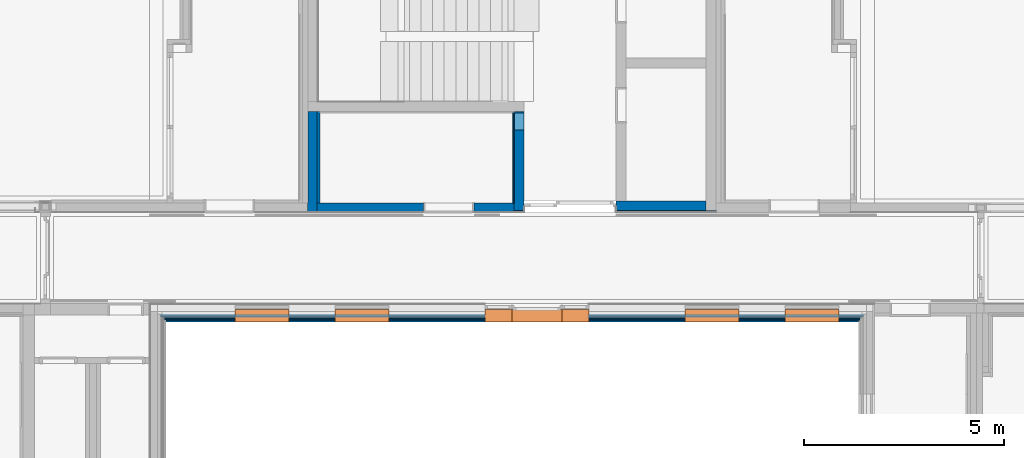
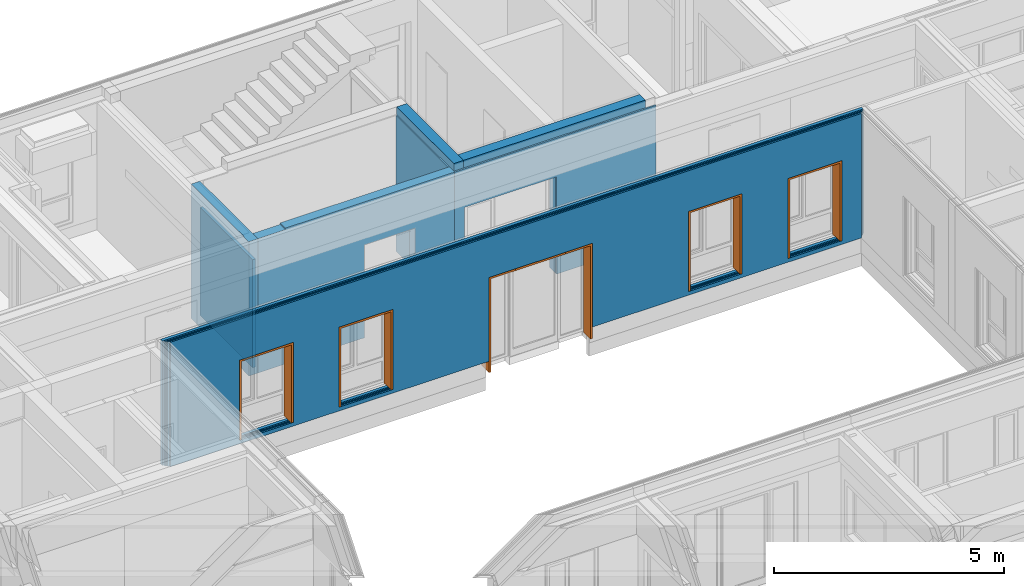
# One storey, part 35 of 207: 12 walls, 7 proxies, 40 openings.
"""IFC4 building model written with IfcOpenShell, lengths in metres."""

from ifc_helpers import new_model, entity, si_unit, converted_unit, derived_unit, frame, frame_2d, origin, origin_with_axes, place, context, subcontext, project, spatial, polyline, rectangle, outline, extrude, clip, bounded_halfspace, faceted_brep, material, element, fill, save


model = new_model("IFC4")

# Units and contexts
model_context = context("Model", 3, precision=1e-05, world=origin())
body_context = subcontext(model_context, "Body", "Model", "MODEL_VIEW")
ifc_project = project(units=[si_unit("LENGTHUNIT", "METRE"), si_unit("AREAUNIT", "SQUARE_METRE"), si_unit("VOLUMEUNIT", "CUBIC_METRE"), si_unit("MASSUNIT", "GRAM", prefix="KILO"), converted_unit("PLANEANGLEUNIT", "DEGREE", entity("IfcPlaneAngleMeasure", 0.0174532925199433), si_unit("PLANEANGLEUNIT", "RADIAN"), dimensions=[0, 0, 0, 0, 0, 0, 0]), derived_unit("THERMALTRANSMITTANCEUNIT", [(si_unit("POWERUNIT", "WATT"), 1), (si_unit("THERMODYNAMICTEMPERATUREUNIT", "KELVIN"), -1), (si_unit("LENGTHUNIT", "METRE"), -2)]), derived_unit("VOLUMETRICFLOWRATEUNIT", [(si_unit("LENGTHUNIT", "METRE"), 3), (converted_unit("TIMEUNIT", "hour", entity("IfcTimeMeasure", 3600.0), si_unit("TIMEUNIT", "SECOND"), dimensions=[0, 0, 1, 0, 0, 0, 0]), -1), (si_unit("LENGTHUNIT", "METRE"), -1)])], contexts=[model_context])

# Site, building, storey
site_placement = place(None, origin())
site = spatial("IfcSite", under=ifc_project, at=site_placement, Name="Psychiatrie Neubau Wunstorf", CompositionType="ELEMENT")
building_placement = place(site_placement, origin())
building = spatial("IfcBuilding", under=site, at=building_placement, Name="Neubau H2 Stationsgebäude", CompositionType="ELEMENT")
storey_placement = place(building_placement, frame((0.0, 0.0, -0.2)))
storey = spatial("IfcBuildingStorey", under=building, at=storey_placement, Name="H2 Ebene 0", CompositionType="ELEMENT", Elevation=-0.2)

# Wall, openings
ifc_material_1 = material(Name="WA-DL")
wall_1_placement = place(storey_placement, frame((61.7850000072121, 20.3299980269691, 0.5), z_axis=(0.0, 0.0, 1.0), x_axis=(-1.0, 0.0, 0.0)))
wall_1 = element("IfcWall", 1, at=wall_1_placement, inside=storey, material=ifc_material_1, context=body_context, shape_type="SweptSolid", body=[
    extrude(rectangle(XDim=17.5700000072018, YDim=0.0800000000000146, at=frame_2d((8.78500000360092, 0.0400000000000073), x_axis=(1.0, 0.0))), origin_with_axes(), (0.0, 0.0, 1.0), 3.3),
])
opening_1_placement = place(wall_1_placement, frame((7.53738818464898, 0.0800000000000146, -0.3), z_axis=(0.0, -1.0, 0.0), x_axis=(0.0, 0.0, 1.0)))
element("IfcOpeningElement", 2, at=opening_1_placement, cuts=wall_1, Name="Fensteröffnung", ObjectType="Opening", context=body_context, shape_type="SweptSolid", body=[
    extrude(outline(polyline([(2.52, 0.675), (2.52, 0.0), (0.0, 0.0), (0.0, 0.675), (2.52, 0.675)])), origin_with_axes(), (0.0, 0.0, 1.0), 0.0800000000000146),
])
opening_2_placement = place(wall_1_placement, frame((1.962388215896, 0.0800000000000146, 0.1), z_axis=(0.0, -1.0, 0.0), x_axis=(0.0, 0.0, 1.0)))
element("IfcOpeningElement", 3, at=opening_2_placement, cuts=wall_1, Name="Fensteröffnung", ObjectType="Opening", context=body_context, shape_type="SweptSolid", body=[
    extrude(outline(polyline([(2.12, 1.35), (2.12, 0.0), (0.0, 0.0), (0.0, 1.35), (2.12, 1.35)])), origin_with_axes(), (0.0, 0.0, 1.0), 0.0800000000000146),
])
opening_3_placement = place(wall_1_placement, frame((4.462388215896, 0.0800000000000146, 0.1), z_axis=(0.0, -1.0, 0.0), x_axis=(0.0, 0.0, 1.0)))
element("IfcOpeningElement", 4, at=opening_3_placement, cuts=wall_1, Name="Fensteröffnung", ObjectType="Opening", context=body_context, shape_type="SweptSolid", body=[
    extrude(outline(polyline([(2.12, 1.35), (2.12, 0.0), (0.0, 0.0), (0.0, 1.35), (2.12, 1.35)])), origin_with_axes(), (0.0, 0.0, 1.0), 0.0800000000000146),
])
opening_4_placement = place(wall_1_placement, frame((13.212388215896, 0.0800000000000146, 0.1), z_axis=(0.0, -1.0, 0.0), x_axis=(0.0, 0.0, 1.0)))
element("IfcOpeningElement", 5, at=opening_4_placement, cuts=wall_1, Name="Fensteröffnung", ObjectType="Opening", context=body_context, shape_type="SweptSolid", body=[
    extrude(outline(polyline([(2.12, 1.35), (2.12, 0.0), (0.0, 0.0), (0.0, 1.35), (2.12, 1.35)])), origin_with_axes(), (0.0, 0.0, 1.0), 0.0800000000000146),
])
opening_5_placement = place(wall_1_placement, frame((15.7123882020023, 0.0800000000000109, 0.1), z_axis=(0.0, -1.0, 0.0), x_axis=(0.0, 0.0, 1.0)))
element("IfcOpeningElement", 6, at=opening_5_placement, cuts=wall_1, Name="Fensteröffnung", ObjectType="Opening", context=body_context, shape_type="SweptSolid", body=[
    extrude(outline(polyline([(2.12, 1.35), (2.12, 0.0), (0.0, 0.0), (0.0, 1.35), (2.12, 1.35)])), origin_with_axes(), (0.0, 0.0, 1.0), 0.0800000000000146),
])
opening_6_placement = place(wall_1_placement, frame((8.787388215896, 0.0800000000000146, -0.5), z_axis=(0.0, -1.0, 0.0), x_axis=(0.0, 0.0, 1.0)))
element("IfcOpeningElement", 7, at=opening_6_placement, cuts=wall_1, Name="Türöffnung", ObjectType="Opening", context=body_context, shape_type="SweptSolid", body=[
    extrude(outline(polyline([(2.72, 1.25), (2.72, 0.0), (0.0, 0.0), (0.0, 1.25), (2.72, 1.25)])), origin_with_axes(), (0.0, 0.0, 1.0), 0.0800000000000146),
])
opening_7_placement = place(wall_1_placement, frame((9.462388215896, 0.0800000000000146, -0.3), z_axis=(0.0, -1.0, 0.0), x_axis=(0.0, 0.0, 1.0)))
element("IfcOpeningElement", 8, at=opening_7_placement, cuts=wall_1, Name="Fensteröffnung", ObjectType="Opening", context=body_context, shape_type="SweptSolid", body=[
    extrude(outline(polyline([(2.52, 0.675), (2.52, 0.0), (0.0, 0.0), (0.0, 0.675), (2.52, 0.675)])), origin_with_axes(), (0.0, 0.0, 1.0), 0.0800000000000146),
])

ifc_material_2 = material(Name="WA-LB")
wall_2_placement = place(storey_placement, frame((61.7490000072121, 20.2499980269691, 0.5), z_axis=(0.0, 0.0, 1.0), x_axis=(-1.0, 0.0, 0.0)))
wall_2 = element("IfcWall", 9, at=wall_2_placement, inside=storey, material=ifc_material_2, context=body_context, shape_type="SweptSolid", body=[
    extrude(rectangle(XDim=17.4980000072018, YDim=0.0359999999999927, at=frame_2d((8.74900000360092, 0.0179999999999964), x_axis=(1.0, 0.0))), origin_with_axes(), (0.0, 0.0, 1.0), 3.3),
])
opening_8_placement = place(wall_2_placement, frame((7.50138818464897, 0.0360000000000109, -0.3), z_axis=(0.0, -1.0, 0.0), x_axis=(0.0, 0.0, 1.0)))
element("IfcOpeningElement", 10, at=opening_8_placement, cuts=wall_2, Name="Fensteröffnung", ObjectType="Opening", context=body_context, shape_type="SweptSolid", body=[
    extrude(outline(polyline([(2.52, 0.675), (2.52, 0.0), (0.0, 0.0), (0.0, 0.675), (2.52, 0.675)])), origin_with_axes(), (0.0, 0.0, 1.0), 0.0360000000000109),
])
opening_9_placement = place(wall_2_placement, frame((1.926388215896, 0.0360000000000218, 0.1), z_axis=(0.0, -1.0, 0.0), x_axis=(0.0, 0.0, 1.0)))
element("IfcOpeningElement", 11, at=opening_9_placement, cuts=wall_2, Name="Fensteröffnung", ObjectType="Opening", context=body_context, shape_type="SweptSolid", body=[
    extrude(outline(polyline([(2.12, 1.35), (2.12, 0.0), (0.0, 0.0), (0.0, 1.35), (2.12, 1.35)])), origin_with_axes(), (0.0, 0.0, 1.0), 0.0360000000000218),
])
opening_10_placement = place(wall_2_placement, frame((4.426388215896, 0.0360000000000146, 0.1), z_axis=(0.0, -1.0, 0.0), x_axis=(0.0, 0.0, 1.0)))
element("IfcOpeningElement", 12, at=opening_10_placement, cuts=wall_2, Name="Fensteröffnung", ObjectType="Opening", context=body_context, shape_type="SweptSolid", body=[
    extrude(outline(polyline([(2.12, 1.35), (2.12, 0.0), (0.0, 0.0), (0.0, 1.35), (2.12, 1.35)])), origin_with_axes(), (0.0, 0.0, 1.0), 0.0360000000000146),
])
opening_11_placement = place(wall_2_placement, frame((13.176388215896, 0.036, 0.1), z_axis=(0.0, -1.0, 0.0), x_axis=(0.0, 0.0, 1.0)))
element("IfcOpeningElement", 13, at=opening_11_placement, cuts=wall_2, Name="Fensteröffnung", ObjectType="Opening", context=body_context, shape_type="SweptSolid", body=[
    extrude(outline(polyline([(2.12, 1.35), (2.12, 0.0), (0.0, 0.0), (0.0, 1.35), (2.12, 1.35)])), origin_with_axes(), (0.0, 0.0, 1.0), 0.036),
])
opening_12_placement = place(wall_2_placement, frame((15.6763882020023, 0.0359999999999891, 0.1), z_axis=(0.0, -1.0, 0.0), x_axis=(0.0, 0.0, 1.0)))
element("IfcOpeningElement", 14, at=opening_12_placement, cuts=wall_2, Name="Fensteröffnung", ObjectType="Opening", context=body_context, shape_type="SweptSolid", body=[
    extrude(outline(polyline([(2.12, 1.35), (2.12, 0.0), (0.0, 0.0), (0.0, 1.35), (2.12, 1.35)])), origin_with_axes(), (0.0, 0.0, 1.0), 0.0359999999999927),
])
opening_13_placement = place(wall_2_placement, frame((8.751388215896, 0.0360000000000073, -0.5), z_axis=(0.0, -1.0, 0.0), x_axis=(0.0, 0.0, 1.0)))
element("IfcOpeningElement", 15, at=opening_13_placement, cuts=wall_2, Name="Türöffnung", ObjectType="Opening", context=body_context, shape_type="SweptSolid", body=[
    extrude(outline(polyline([(2.72, 1.25), (2.72, 0.0), (0.0, 0.0), (0.0, 1.25), (2.72, 1.25)])), origin_with_axes(), (0.0, 0.0, 1.0), 0.0360000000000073),
])
opening_14_placement = place(wall_2_placement, frame((9.426388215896, 0.0360000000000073, -0.3), z_axis=(0.0, -1.0, 0.0), x_axis=(0.0, 0.0, 1.0)))
element("IfcOpeningElement", 16, at=opening_14_placement, cuts=wall_2, Name="Fensteröffnung", ObjectType="Opening", context=body_context, shape_type="SweptSolid", body=[
    extrude(outline(polyline([(2.52, 0.675), (2.52, 0.0), (0.0, 0.0), (0.0, 0.675), (2.52, 0.675)])), origin_with_axes(), (0.0, 0.0, 1.0), 0.0360000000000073),
])

ifc_material_3 = material(Name="WA-KL")
wall_3_placement = place(storey_placement, frame((61.7250000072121, 20.2139980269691, 0.5), z_axis=(0.0, 0.0, 1.0), x_axis=(-1.0, 1.87632144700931e-15, 0.0)))
wall_3 = element("IfcWall", 17, at=wall_3_placement, inside=storey, material=ifc_material_3, context=body_context, shape_type="SweptSolid", body=[
    extrude(rectangle(XDim=17.4500000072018, YDim=0.0240000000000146, at=frame_2d((8.72500000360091, 0.0120000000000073), x_axis=(1.0, 0.0))), origin_with_axes(), (0.0, 0.0, 1.0), 3.3),
])
opening_15_placement = place(wall_3_placement, frame((7.47738818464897, 0.0239999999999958, -0.3), z_axis=(0.0, -1.0, 0.0), x_axis=(0.0, 0.0, 1.0)))
element("IfcOpeningElement", 18, at=opening_15_placement, cuts=wall_3, Name="Fensteröffnung", ObjectType="Opening", context=body_context, shape_type="SweptSolid", body=[
    extrude(outline(polyline([(2.52, 0.675), (2.52, 0.0), (0.0, 0.0), (0.0, 0.675), (2.52, 0.675)])), origin_with_axes(), (0.0, 0.0, 1.0), 0.0239999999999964),
])
opening_16_placement = place(wall_3_placement, frame((1.902388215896, 0.0239999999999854, 0.1), z_axis=(0.0, -1.0, 0.0), x_axis=(0.0, 0.0, 1.0)))
element("IfcOpeningElement", 19, at=opening_16_placement, cuts=wall_3, Name="Fensteröffnung", ObjectType="Opening", context=body_context, shape_type="SweptSolid", body=[
    extrude(outline(polyline([(2.12, 1.35), (2.12, 0.0), (0.0, 0.0), (0.0, 1.35), (2.12, 1.35)])), origin_with_axes(), (0.0, 0.0, 1.0), 0.0239999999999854),
])
opening_17_placement = place(wall_3_placement, frame((4.402388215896, 0.0239999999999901, 0.1), z_axis=(0.0, -1.0, 0.0), x_axis=(0.0, 0.0, 1.0)))
element("IfcOpeningElement", 20, at=opening_17_placement, cuts=wall_3, Name="Fensteröffnung", ObjectType="Opening", context=body_context, shape_type="SweptSolid", body=[
    extrude(outline(polyline([(2.12, 1.35), (2.12, 0.0), (0.0, 0.0), (0.0, 1.35), (2.12, 1.35)])), origin_with_axes(), (0.0, 0.0, 1.0), 0.0239999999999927),
])
opening_18_placement = place(wall_3_placement, frame((13.152388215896, 0.0240000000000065, 0.1), z_axis=(0.0, -1.0, 0.0), x_axis=(0.0, 0.0, 1.0)))
element("IfcOpeningElement", 21, at=opening_18_placement, cuts=wall_3, Name="Fensteröffnung", ObjectType="Opening", context=body_context, shape_type="SweptSolid", body=[
    extrude(outline(polyline([(2.12, 1.35), (2.12, 0.0), (0.0, 0.0), (0.0, 1.35), (2.12, 1.35)])), origin_with_axes(), (0.0, 0.0, 1.0), 0.0240000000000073),
])
opening_19_placement = place(wall_3_placement, frame((15.6523882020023, 0.0240000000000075, 0.1), z_axis=(0.0, -1.0, 0.0), x_axis=(0.0, 0.0, 1.0)))
element("IfcOpeningElement", 22, at=opening_19_placement, cuts=wall_3, Name="Fensteröffnung", ObjectType="Opening", context=body_context, shape_type="SweptSolid", body=[
    extrude(outline(polyline([(2.12, 1.35), (2.12, 0.0), (0.0, 0.0), (0.0, 1.35), (2.12, 1.35)])), origin_with_axes(), (0.0, 0.0, 1.0), 0.0240000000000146),
])
opening_20_placement = place(wall_3_placement, frame((8.727388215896, 0.0239999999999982, -0.5), z_axis=(0.0, -1.0, 0.0), x_axis=(0.0, 0.0, 1.0)))
element("IfcOpeningElement", 23, at=opening_20_placement, cuts=wall_3, Name="Türöffnung", ObjectType="Opening", context=body_context, shape_type="SweptSolid", body=[
    extrude(outline(polyline([(2.72, 1.25), (2.72, 0.0), (0.0, 0.0), (0.0, 1.25), (2.72, 1.25)])), origin_with_axes(), (0.0, 0.0, 1.0), 0.024),
])
opening_21_placement = place(wall_3_placement, frame((9.402388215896, 0.0239999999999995, -0.3), z_axis=(0.0, -1.0, 0.0), x_axis=(0.0, 0.0, 1.0)))
element("IfcOpeningElement", 24, at=opening_21_placement, cuts=wall_3, Name="Fensteröffnung", ObjectType="Opening", context=body_context, shape_type="SweptSolid", body=[
    extrude(outline(polyline([(2.52, 0.675), (2.52, 0.0), (0.0, 0.0), (0.0, 0.675), (2.52, 0.675)])), origin_with_axes(), (0.0, 0.0, 1.0), 0.024),
])

ifc_material_4 = material(Name="WA-TL")
wall_4_placement = place(storey_placement, frame((61.7010000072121, 20.1899980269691, 0.5), z_axis=(0.0, 0.0, 1.0), x_axis=(-1.0, 0.0, 0.0)))
wall_4 = element("IfcWall", 25, at=wall_4_placement, inside=storey, material=ifc_material_4, context=body_context, shape_type="SweptSolid", body=[
    extrude(rectangle(XDim=17.4020000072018, YDim=0.0239999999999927, at=frame_2d((8.70100000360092, 0.0119999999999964), x_axis=(1.0, 0.0))), origin_with_axes(), (0.0, 0.0, 1.0), 3.3),
])
opening_22_placement = place(wall_4_placement, frame((7.45338818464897, 0.0240000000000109, -0.3), z_axis=(0.0, -1.0, 0.0), x_axis=(0.0, 0.0, 1.0)))
element("IfcOpeningElement", 26, at=opening_22_placement, cuts=wall_4, Name="Fensteröffnung", ObjectType="Opening", context=body_context, shape_type="SweptSolid", body=[
    extrude(outline(polyline([(2.52, 0.675), (2.52, 0.0), (0.0, 0.0), (0.0, 0.675), (2.52, 0.675)])), origin_with_axes(), (0.0, 0.0, 1.0), 0.0240000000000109),
])
opening_23_placement = place(wall_4_placement, frame((1.878388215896, 0.0240000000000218, 0.1), z_axis=(0.0, -1.0, 0.0), x_axis=(0.0, 0.0, 1.0)))
element("IfcOpeningElement", 27, at=opening_23_placement, cuts=wall_4, Name="Fensteröffnung", ObjectType="Opening", context=body_context, shape_type="SweptSolid", body=[
    extrude(outline(polyline([(2.12, 1.35), (2.12, 0.0), (0.0, 0.0), (0.0, 1.35), (2.12, 1.35)])), origin_with_axes(), (0.0, 0.0, 1.0), 0.0240000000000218),
])
opening_24_placement = place(wall_4_placement, frame((4.378388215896, 0.0240000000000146, 0.1), z_axis=(0.0, -1.0, 0.0), x_axis=(0.0, 0.0, 1.0)))
element("IfcOpeningElement", 28, at=opening_24_placement, cuts=wall_4, Name="Fensteröffnung", ObjectType="Opening", context=body_context, shape_type="SweptSolid", body=[
    extrude(outline(polyline([(2.12, 1.35), (2.12, 0.0), (0.0, 0.0), (0.0, 1.35), (2.12, 1.35)])), origin_with_axes(), (0.0, 0.0, 1.0), 0.0240000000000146),
])
opening_25_placement = place(wall_4_placement, frame((13.128388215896, 0.024, 0.1), z_axis=(0.0, -1.0, 0.0), x_axis=(0.0, 0.0, 1.0)))
element("IfcOpeningElement", 29, at=opening_25_placement, cuts=wall_4, Name="Fensteröffnung", ObjectType="Opening", context=body_context, shape_type="SweptSolid", body=[
    extrude(outline(polyline([(2.12, 1.35), (2.12, 0.0), (0.0, 0.0), (0.0, 1.35), (2.12, 1.35)])), origin_with_axes(), (0.0, 0.0, 1.0), 0.024),
])
opening_26_placement = place(wall_4_placement, frame((15.6283882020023, 0.0239999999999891, 0.1), z_axis=(0.0, -1.0, 0.0), x_axis=(0.0, 0.0, 1.0)))
element("IfcOpeningElement", 30, at=opening_26_placement, cuts=wall_4, Name="Fensteröffnung", ObjectType="Opening", context=body_context, shape_type="SweptSolid", body=[
    extrude(outline(polyline([(2.12, 1.35), (2.12, 0.0), (0.0, 0.0), (0.0, 1.35), (2.12, 1.35)])), origin_with_axes(), (0.0, 0.0, 1.0), 0.0239999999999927),
])
opening_27_placement = place(wall_4_placement, frame((8.703388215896, 0.0240000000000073, -0.5), z_axis=(0.0, -1.0, 0.0), x_axis=(0.0, 0.0, 1.0)))
element("IfcOpeningElement", 31, at=opening_27_placement, cuts=wall_4, Name="Türöffnung", ObjectType="Opening", context=body_context, shape_type="SweptSolid", body=[
    extrude(outline(polyline([(2.72, 1.25), (2.72, 0.0), (0.0, 0.0), (0.0, 1.25), (2.72, 1.25)])), origin_with_axes(), (0.0, 0.0, 1.0), 0.0240000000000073),
])
opening_28_placement = place(wall_4_placement, frame((9.378388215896, 0.0240000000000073, -0.3), z_axis=(0.0, -1.0, 0.0), x_axis=(0.0, 0.0, 1.0)))
element("IfcOpeningElement", 32, at=opening_28_placement, cuts=wall_4, Name="Fensteröffnung", ObjectType="Opening", context=body_context, shape_type="SweptSolid", body=[
    extrude(outline(polyline([(2.52, 0.675), (2.52, 0.0), (0.0, 0.0), (0.0, 0.675), (2.52, 0.675)])), origin_with_axes(), (0.0, 0.0, 1.0), 0.0240000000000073),
])

# Wall, openings, proxies
ifc_material_5 = material(Name="WA-HS")
wall_5_placement = place(storey_placement, frame((61.6590000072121, 20.1659980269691, 0.5), z_axis=(0.0, 0.0, 1.0), x_axis=(-1.0, 1.8906230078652e-15, 0.0)))
wall_5 = element("IfcWall", 33, at=wall_5_placement, inside=storey, material=ifc_material_5, context=body_context, shape_type="SweptSolid", body=[
    extrude(rectangle(XDim=17.3180000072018, YDim=0.0420000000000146, at=frame_2d((8.65900000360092, 0.0210000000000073), x_axis=(1.0, 0.0))), origin_with_axes(), (0.0, 0.0, 1.0), 3.3),
])
opening_29_placement = place(wall_5_placement, frame((7.41138818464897, 0.0419999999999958, -0.3), z_axis=(0.0, -1.0, 0.0), x_axis=(0.0, 0.0, 1.0)))
opening_29 = element("IfcOpeningElement", 34, at=opening_29_placement, cuts=wall_5, Name="Fensteröffnung", ObjectType="Opening", context=body_context, shape_type="SweptSolid", body=[
    extrude(outline(polyline([(2.52, 0.675), (2.52, 0.0), (0.0, 0.0), (0.0, 0.675), (2.52, 0.675)])), origin_with_axes(), (0.0, 0.0, 1.0), 0.0419999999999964),
])
opening_30_placement = place(wall_5_placement, frame((1.836388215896, 0.0419999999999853, 0.1), z_axis=(0.0, -1.0, 0.0), x_axis=(0.0, 0.0, 1.0)))
opening_30 = element("IfcOpeningElement", 35, at=opening_30_placement, cuts=wall_5, Name="Fensteröffnung", ObjectType="Opening", context=body_context, shape_type="SweptSolid", body=[
    extrude(outline(polyline([(2.12, 1.35), (2.12, 0.0), (0.0, 0.0), (0.0, 1.35), (2.12, 1.35)])), origin_with_axes(), (0.0, 0.0, 1.0), 0.0419999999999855),
])
opening_31_placement = place(wall_5_placement, frame((4.336388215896, 0.04199999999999, 0.1), z_axis=(0.0, -1.0, 0.0), x_axis=(0.0, 0.0, 1.0)))
opening_31 = element("IfcOpeningElement", 36, at=opening_31_placement, cuts=wall_5, Name="Fensteröffnung", ObjectType="Opening", context=body_context, shape_type="SweptSolid", body=[
    extrude(outline(polyline([(2.12, 1.35), (2.12, 0.0), (0.0, 0.0), (0.0, 1.35), (2.12, 1.35)])), origin_with_axes(), (0.0, 0.0, 1.0), 0.0419999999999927),
])
opening_32_placement = place(wall_5_placement, frame((13.086388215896, 0.0420000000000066, 0.1), z_axis=(0.0, -1.0, 0.0), x_axis=(0.0, 0.0, 1.0)))
opening_32 = element("IfcOpeningElement", 37, at=opening_32_placement, cuts=wall_5, Name="Fensteröffnung", ObjectType="Opening", context=body_context, shape_type="SweptSolid", body=[
    extrude(outline(polyline([(2.12, 1.35), (2.12, 0.0), (0.0, 0.0), (0.0, 1.35), (2.12, 1.35)])), origin_with_axes(), (0.0, 0.0, 1.0), 0.0420000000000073),
])
opening_33_placement = place(wall_5_placement, frame((15.5863882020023, 0.042000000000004, 0.1), z_axis=(0.0, -1.0, 0.0), x_axis=(0.0, 0.0, 1.0)))
opening_33 = element("IfcOpeningElement", 38, at=opening_33_placement, cuts=wall_5, Name="Fensteröffnung", ObjectType="Opening", context=body_context, shape_type="SweptSolid", body=[
    extrude(outline(polyline([(2.12, 1.35), (2.12, 0.0), (0.0, 0.0), (0.0, 1.35), (2.12, 1.35)])), origin_with_axes(), (0.0, 0.0, 1.0), 0.0420000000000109),
])
opening_34_placement = place(wall_5_placement, frame((8.661388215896, 0.0419999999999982, -0.5), z_axis=(0.0, -1.0, 0.0), x_axis=(0.0, 0.0, 1.0)))
opening_34 = element("IfcOpeningElement", 39, at=opening_34_placement, cuts=wall_5, Name="Türöffnung", ObjectType="Opening", context=body_context, shape_type="SweptSolid", body=[
    extrude(outline(polyline([(2.72, 1.25), (2.72, 0.0), (0.0, 0.0), (0.0, 1.25), (2.72, 1.25)])), origin_with_axes(), (0.0, 0.0, 1.0), 0.042),
])
opening_35_placement = place(wall_5_placement, frame((9.336388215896, 0.0419999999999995, -0.3), z_axis=(0.0, -1.0, 0.0), x_axis=(0.0, 0.0, 1.0)))
opening_35 = element("IfcOpeningElement", 40, at=opening_35_placement, cuts=wall_5, Name="Fensteröffnung", ObjectType="Opening", context=body_context, shape_type="SweptSolid", body=[
    extrude(outline(polyline([(2.52, 0.675), (2.52, 0.0), (0.0, 0.0), (0.0, 0.675), (2.52, 0.675)])), origin_with_axes(), (0.0, 0.0, 1.0), 0.042),
])
ifc_material_6 = material(Name="WA-HS")
proxy_1_placement = place(opening_29_placement, origin())
proxy_1 = element("IfcBuildingElementProxy", 41, at=proxy_1_placement, inside=storey, material=ifc_material_6, context=body_context, shape_type="Brep", body=[
    faceted_brep([(0.0, 0.674999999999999, 0.315000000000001), (0.0, 0.675, 0.0), (2.52, 0.675, 0.0), (2.52, 0.674999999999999, 0.315000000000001), (2.52, 0.0, 0.0), (2.52, 0.0, 0.315), (0.0, 0.625, 0.0), (0.0, 0.624999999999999, 0.315000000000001), (2.47, 0.0, 0.315), (2.47, 0.624999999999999, 0.315000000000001), (2.47, 0.625, 0.0), (2.47, 0.0, 0.0)], [[[0, 1, 2, 3]], [[2, 4, 5, 3]], [[6, 1, 0, 7]], [[7, 0, 3, 5, 8, 9]], [[1, 6, 10, 11, 4, 2]], [[6, 7, 9, 10]], [[11, 8, 5, 4]], [[8, 11, 10, 9]]], orient=[[False], [False], [False], [False], [False], [False], [False], [False]]),
])
fill(opening_29, proxy_1)
ifc_material_7 = material(Name="WA-HS")
proxy_2_placement = place(opening_30_placement, origin())
proxy_2 = element("IfcBuildingElementProxy", 42, at=proxy_2_placement, inside=storey, material=ifc_material_7, context=body_context, shape_type="Brep", body=[
    faceted_brep([(0.0, 1.35, 0.315000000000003), (0.0, 1.35, 0.0), (2.12, 1.35, 0.0), (2.12, 1.35, 0.315000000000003), (2.12, 0.0, 0.0), (2.12, 0.0, 0.315), (0.0, 1.3, 0.0), (0.0, 1.3, 0.315000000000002), (0.0, 0.0, 0.315), (0.0, 0.0499999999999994, 0.315), (2.07, 0.0499999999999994, 0.315), (2.07, 1.3, 0.315000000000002), (2.07, 1.3, 0.0), (2.07, 0.05, 0.0), (0.0, 0.05, 0.0), (0.0, 0.0, 0.0)], [[[0, 1, 2, 3]], [[2, 4, 5, 3]], [[6, 1, 0, 7]], [[7, 0, 3, 5, 8, 9, 10, 11]], [[1, 6, 12, 13, 14, 15, 4, 2]], [[6, 7, 11, 12]], [[15, 8, 5, 4]], [[15, 14, 9, 8]], [[9, 14, 13, 10]], [[10, 13, 12, 11]]], orient=[[False], [False], [False], [False], [False], [False], [False], [False], [False], [False]]),
])
fill(opening_30, proxy_2)
ifc_material_8 = material(Name="WA-HS")
proxy_3_placement = place(opening_31_placement, origin())
proxy_3 = element("IfcBuildingElementProxy", 43, at=proxy_3_placement, inside=storey, material=ifc_material_8, context=body_context, shape_type="Brep", body=[
    faceted_brep([(0.0, 1.35, 0.315000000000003), (0.0, 1.35, 0.0), (2.12, 1.35, 0.0), (2.12, 1.35, 0.315000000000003), (2.12, 0.0, 0.0), (2.12, 0.0, 0.315), (0.0, 1.3, 0.0), (0.0, 1.3, 0.315000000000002), (0.0, 0.0, 0.315), (0.0, 0.0499999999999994, 0.315), (2.07, 0.0499999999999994, 0.315), (2.07, 1.3, 0.315000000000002), (2.07, 1.3, 0.0), (2.07, 0.05, 0.0), (0.0, 0.05, 0.0), (0.0, 0.0, 0.0)], [[[0, 1, 2, 3]], [[2, 4, 5, 3]], [[6, 1, 0, 7]], [[7, 0, 3, 5, 8, 9, 10, 11]], [[1, 6, 12, 13, 14, 15, 4, 2]], [[6, 7, 11, 12]], [[15, 8, 5, 4]], [[15, 14, 9, 8]], [[9, 14, 13, 10]], [[10, 13, 12, 11]]], orient=[[False], [False], [False], [False], [False], [False], [False], [False], [False], [False]]),
])
fill(opening_31, proxy_3)
ifc_material_9 = material(Name="WA-HS")
proxy_4_placement = place(opening_32_placement, origin())
proxy_4 = element("IfcBuildingElementProxy", 44, at=proxy_4_placement, inside=storey, material=ifc_material_9, context=body_context, shape_type="Brep", body=[
    faceted_brep([(0.0, 0.0, 0.0), (0.0, 0.0, 0.315), (2.12, 0.0, 0.315), (2.12, 0.0, 0.0), (0.0, 0.0499999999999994, 0.315), (0.0, 0.05, 0.0), (2.07, 0.05, 0.0), (2.07, 0.0499999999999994, 0.315), (2.12, 1.35, 0.315000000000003), (2.12, 1.35, 0.0), (0.0, 1.35, 0.0), (0.0, 1.3, 0.0), (2.07, 1.3, 0.0), (2.07, 1.3, 0.315000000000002), (0.0, 1.3, 0.315000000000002), (0.0, 1.35, 0.315000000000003)], [[[0, 1, 2, 3]], [[4, 5, 6, 7]], [[0, 5, 4, 1]], [[3, 2, 8, 9]], [[6, 5, 0, 3, 9, 10, 11, 12]], [[13, 14, 15, 8, 2, 1, 4, 7]], [[7, 6, 12, 13]], [[11, 14, 13, 12]], [[15, 10, 9, 8]], [[11, 10, 15, 14]]], orient=[[False], [False], [False], [False], [False], [False], [False], [False], [False], [False]]),
])
fill(opening_32, proxy_4)
ifc_material_10 = material(Name="WA-HS")
proxy_5_placement = place(opening_33_placement, origin())
proxy_5 = element("IfcBuildingElementProxy", 45, at=proxy_5_placement, inside=storey, material=ifc_material_10, context=body_context, shape_type="Brep", body=[
    faceted_brep([(0.0, 0.0, 0.0), (0.0, 0.0, 0.315000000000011), (2.12, 0.0, 0.315000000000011), (2.12, 0.0, 0.0), (0.0, 0.0499999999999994, 0.315000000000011), (0.0, 0.05, 0.0), (2.07, 0.0500000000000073, 0.0), (2.07, 0.0500000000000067, 0.315), (2.12, 1.35, 0.315000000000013), (2.12, 1.35, 0.0), (0.0, 1.35, 0.0), (0.0, 1.3, 0.0), (2.07, 1.30000000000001, 0.0), (2.07, 1.30000000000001, 0.315000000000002), (0.0, 1.3, 0.315000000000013), (0.0, 1.35, 0.315000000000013)], [[[0, 1, 2, 3]], [[4, 5, 6, 7]], [[0, 5, 4, 1]], [[3, 2, 8, 9]], [[6, 5, 0, 3, 9, 10, 11, 12]], [[13, 14, 15, 8, 2, 1, 4, 7]], [[7, 6, 12, 13]], [[11, 14, 13, 12]], [[15, 10, 9, 8]], [[11, 10, 15, 14]]], orient=[[False], [False], [False], [False], [False], [False], [False], [False], [False], [False]]),
])
fill(opening_33, proxy_5)
ifc_material_11 = material(Name="WA-HS")
proxy_6_placement = place(opening_34_placement, frame((2.67, 0.0, 0.0)))
proxy_6 = element("IfcBuildingElementProxy", 46, at=proxy_6_placement, inside=storey, material=ifc_material_11, context=body_context, shape_type="Brep", body=[
    faceted_brep([(0.0, 0.0, 0.315), (0.0, 0.0, 0.0), (0.0, 1.25, 0.0), (0.0, 1.25, 0.315000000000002), (0.05, 0.0, 0.0), (0.05, 0.0, 0.315), (0.05, 1.25, 0.315000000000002), (0.05, 1.25, 0.0)], [[[0, 1, 2, 3]], [[4, 5, 6, 7]], [[1, 0, 5, 4]], [[2, 1, 4, 7]], [[3, 2, 7, 6]], [[0, 3, 6, 5]]], orient=[[False], [False], [False], [False], [False], [False]]),
])
fill(opening_34, proxy_6)
ifc_material_12 = material(Name="WA-HS")
proxy_7_placement = place(opening_35_placement, origin())
proxy_7 = element("IfcBuildingElementProxy", 47, at=proxy_7_placement, inside=storey, material=ifc_material_12, context=body_context, shape_type="Brep", body=[
    faceted_brep([(0.0, 0.0, 0.0), (0.0, 0.0, 0.315), (2.52, 0.0, 0.315), (2.52, 0.0, 0.0), (2.52, 0.674999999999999, 0.315000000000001), (2.52, 0.675, 0.0), (0.0, 0.05, 0.0), (0.0, 0.0499999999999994, 0.315), (2.47, 0.675, 0.0), (2.47, 0.05, 0.0), (2.47, 0.0499999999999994, 0.315), (2.47, 0.674999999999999, 0.315000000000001)], [[[0, 1, 2, 3]], [[3, 2, 4, 5]], [[0, 6, 7, 1]], [[6, 0, 3, 5, 8, 9]], [[1, 7, 10, 11, 4, 2]], [[7, 6, 9, 10]], [[11, 8, 5, 4]], [[10, 9, 8, 11]]], orient=[[False], [False], [False], [False], [False], [False], [False], [False]]),
])
fill(opening_35, proxy_7)

# Wall, opening
ifc_material_13 = material(Name="WI-HW 60")
wall_6_placement = place(storey_placement, frame((53.05, 23.0959999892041, 0.0), z_axis=(0.0, 0.0, 1.0), x_axis=(-1.0, 0.0, 0.0)))
wall_6 = element("IfcWall", 48, at=wall_6_placement, inside=storey, material=ifc_material_13, context=body_context, shape_type="Clipping", body=[
    clip(extrude(rectangle(XDim=4.929, YDim=0.232, at=frame_2d((2.4645, 0.116), x_axis=(1.0, 0.0))), origin_with_axes(), (0.0, 0.0, 1.0), 3.6), bounded_halfspace(frame((4.5845, 0.116, 3.56), z_axis=(0.0, 0.0, -1.0), x_axis=(0.0, 1.0, 0.0)), True, origin_with_axes(), polyline([(4.929, 0.0), (4.929, 0.232), (4.24, 0.232), (4.24, 0.0), (4.929, 0.0)]))),
])
opening_36_placement = place(wall_6_placement, frame((1.0, 0.0, 0.0), z_axis=(0.0, 1.0, 0.0), x_axis=(0.0, 0.0, 1.0)))
element("IfcOpeningElement", 49, at=opening_36_placement, cuts=wall_6, Name="SMT", ObjectType="Opening", context=body_context, shape_type="SweptSolid", body=[
    extrude(outline(polyline([(2.46, 1.26), (2.46, 0.0), (0.0, 0.0), (0.0, 1.26), (2.46, 1.26)])), origin_with_axes(), (0.0, 0.0, 1.0), 0.232),
])

# Walls
ifc_material_14 = material(Name="WI-HW 60")
wall_7_placement = place(storey_placement, frame((47.9, 25.3849999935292, 0.0), z_axis=(0.0, 0.0, 1.0), x_axis=(-0.00480553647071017, -0.999988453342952, 0.0)))
element("IfcWall", 50, at=wall_7_placement, inside=storey, material=ifc_material_14, context=body_context, shape_type="SweptSolid", body=[
    extrude(outline(polyline([(-0.231997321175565, -0.00111488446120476), (0.0, 0.0), (-0.00111488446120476, 0.231997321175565), (-2.52208577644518, 0.219882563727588), (-2.52102375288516, -0.00111488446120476), (-0.232050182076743, 0.00988498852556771), (-0.231997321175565, -0.00111488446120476)])), frame((2.52102375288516, 0.00111488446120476, 0.0), z_axis=(0.0, 0.0, 1.0), x_axis=(1.0, 0.0, 0.0)), (0.0, 0.0, 1.0), 3.56),
])
ifc_material_15 = material(Name="WI-LB")
wall_8_placement = place(storey_placement, frame((48.196, 23.0959999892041, 0.0), z_axis=(0.0, 0.0, 1.0), x_axis=(0.0, 1.0, 0.0)))
element("IfcWall", 51, at=wall_8_placement, inside=storey, material=ifc_material_15, context=body_context, shape_type="SweptSolid", body=[
    extrude(rectangle(XDim=2.28900000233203, YDim=0.075, at=frame_2d((1.14450000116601, 0.0375), x_axis=(1.0, 0.0))), origin_with_axes(), (0.0, 0.0, 1.0), 2.86),
])

# Wall, openings
ifc_material_16 = material(Name="WI-STB")
wall_9_placement = place(storey_placement, frame((53.3, 22.9049999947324, 0.0), z_axis=(0.0, 0.0, 1.0), x_axis=(0.0, 1.0, 0.0)))
wall_9 = element("IfcWall", 52, at=wall_9_placement, inside=storey, material=ifc_material_16, context=body_context, shape_type="SweptSolid", body=[
    extrude(outline(polyline([(0.0, -0.25), (2.4799999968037, -0.25), (2.4799999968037, 0.0), (0.190999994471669, 0.0), (0.0, 0.0), (0.0, -0.25)])), frame((0.0, 0.25, 0.0), z_axis=(0.0, 0.0, 1.0), x_axis=(1.0, 0.0, 0.0)), (0.0, 0.0, 1.0), 3.8),
])
opening_37_placement = place(wall_9_placement, frame((2.44055061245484, 0.25, 0.4), z_axis=(0.0, -1.0, 0.0), x_axis=(0.0, 0.0, 1.0)))
element("IfcOpeningElement", 53, at=opening_37_placement, cuts=wall_9, Name="Wandnische", ObjectType="Opening", context=body_context, shape_type="SweptSolid", body=[
    extrude(outline(polyline([(1.12, 0.42), (1.12, 0.0), (0.0, 0.0), (0.0, 0.42), (1.12, 0.42)])), origin_with_axes(), (0.0, 0.0, 1.0), 0.0299996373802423),
])
opening_38_placement = place(wall_9_placement, frame((2.44055061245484, 0.220000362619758, 0.4), z_axis=(0.0, -1.0, 0.0), x_axis=(0.0, 0.0, 1.0)))
element("IfcOpeningElement", 54, at=opening_38_placement, cuts=wall_9, Name="Wandnische", ObjectType="Opening", context=body_context, shape_type="SweptSolid", body=[
    extrude(outline(polyline([(1.12, 0.42), (1.12, 0.0), (0.0, 0.0), (0.0, 0.42), (1.12, 0.42)])), origin_with_axes(), (0.0, 0.0, 1.0), 0.220000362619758),
])

# Wall
ifc_material_17 = material(Name="WI-LB")
wall_10_placement = place(storey_placement, frame((53.05, 23.0959999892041, 0.0), z_axis=(0.0, 0.0, 1.0), x_axis=(0.0, 1.0, 0.0)))
element("IfcWall", 55, at=wall_10_placement, inside=storey, material=ifc_material_17, context=body_context, shape_type="SweptSolid", body=[
    extrude(rectangle(XDim=2.25900036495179, YDim=0.0299996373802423, at=frame_2d((1.12950018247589, 0.0149998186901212), x_axis=(1.0, 0.0))), origin_with_axes(), (0.0, 0.0, 1.0), 3.6),
])

# Wall, opening
ifc_material_18 = material(Name="WI-STB")
wall_11_placement = place(storey_placement, frame((57.85, 23.1549999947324, 0.0), z_axis=(0.0, 0.0, 1.0), x_axis=(-1.0, 0.0, 0.0)))
wall_11 = element("IfcWall", 56, at=wall_11_placement, inside=storey, material=ifc_material_18, context=body_context, shape_type="SweptSolid", body=[
    extrude(rectangle(XDim=4.55, YDim=0.25, at=frame_2d((2.275, 0.125), x_axis=(1.0, 0.0))), origin_with_axes(), (0.0, 0.0, 1.0), 3.8),
])
opening_39_placement = place(wall_11_placement, frame((4.55, 0.25, 0.0), z_axis=(0.0, -1.0, 0.0), x_axis=(0.0, 0.0, 1.0)))
element("IfcOpeningElement", 57, at=opening_39_placement, cuts=wall_11, Name="Türöffnung", ObjectType="Opening", context=body_context, shape_type="SweptSolid", body=[
    extrude(outline(polyline([(2.58, 2.3), (2.58, 0.0), (0.0, 0.0), (0.0, 2.3), (2.58, 2.3)])), origin_with_axes(), (0.0, 0.0, 1.0), 0.25),
])

ifc_material_19 = material(Name="WI-LB")
wall_12_placement = place(storey_placement, frame((58.1, 22.9049999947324, 0.0), z_axis=(0.0, 0.0, 1.0), x_axis=(-1.0, 0.0, 0.0)))
wall_12 = element("IfcWall", 58, at=wall_12_placement, inside=storey, material=ifc_material_19, context=body_context, shape_type="SweptSolid", body=[
    extrude(rectangle(XDim=5.05, YDim=0.041, at=frame_2d((2.525, 0.0205), x_axis=(1.0, 0.0))), origin_with_axes(), (0.0, 0.0, 1.0), 3.6),
])
opening_40_placement = place(wall_12_placement, frame((4.8, 0.041, 0.0), z_axis=(0.0, -1.0, 0.0), x_axis=(0.0, 0.0, 1.0)))
element("IfcOpeningElement", 59, at=opening_40_placement, cuts=wall_12, Name="Türöffnung", ObjectType="Opening", context=body_context, shape_type="SweptSolid", body=[
    extrude(outline(polyline([(2.58, 2.3), (2.58, 0.0), (0.0, 0.0), (0.0, 2.3), (2.58, 2.3)])), origin_with_axes(), (0.0, 0.0, 1.0), 0.041),
])

save(model, "model.ifc")
